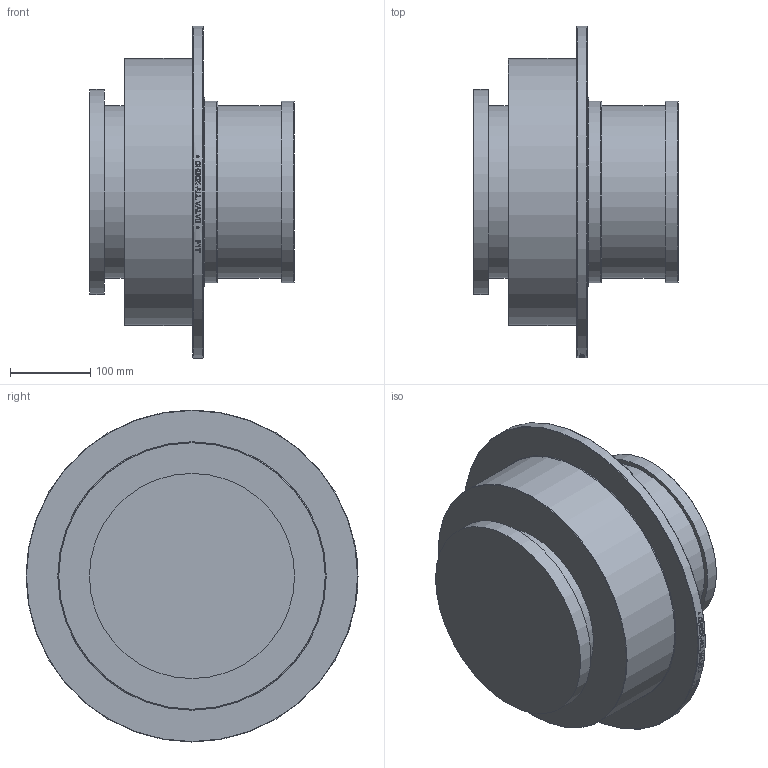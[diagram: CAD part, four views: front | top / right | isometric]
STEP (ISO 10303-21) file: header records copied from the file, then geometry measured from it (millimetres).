
FILE_DESCRIPTION( ( 'Unknown' ), '1' );
FILE_NAME( 'Y:/ENGR/3D Solid Edge Models/F1/F1 STEP/F1T.stp', 'Unknown', ( 'Unknown' ), ( 'Unknown' ), 'PSStep 14.0', 'Unknown', ' ' );
FILE_SCHEMA( ( 'AUTOMOTIVE_DESIGN { 1 0 10303 214 1 1 1 1 }' ) );
Length unit declared in the file: millimetre
Products named in the file (1): 1
Bounding box: 254.18 x 412.75 x 412.75 mm (x, y, z)
Volume: 15179984.6 mm3; surface area: 517093.7 mm2
Topology: 1 solids, 1 shells, 213 faces, 537 edges, 356 vertices
Faces by surface type: plane 133, bspline 43, cylinder 30, torus 4, cone 3
Full cylindrical faces by diameter (mm): 214.884 x2, 225.933 x2, 255.016 x1, 332.156 x1, 412.75 x1
Entity records: 10037 total; most frequent: CARTESIAN_POINT 4346, ORIENTED_EDGE 1046, EDGE_CURVE 523, B_SPLINE_CURVE_WITH_KNOTS 501, DIRECTION 386, VERTEX_POINT 356, EDGE_LOOP 257, FACE_OUTER_BOUND 224
